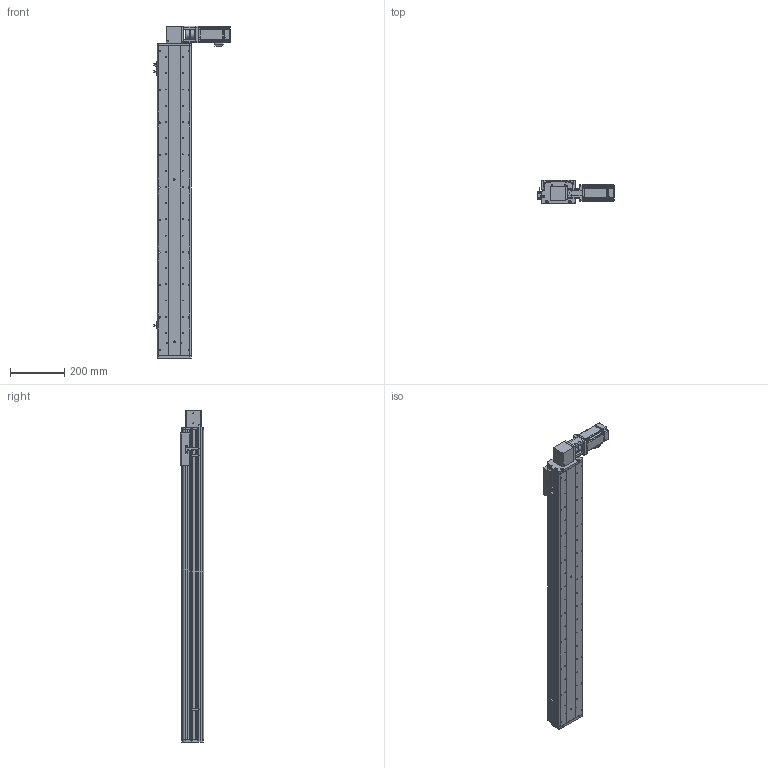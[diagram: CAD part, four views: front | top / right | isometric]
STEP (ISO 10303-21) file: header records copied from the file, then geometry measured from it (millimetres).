
FILE_DESCRIPTION (( 'STEP AP214' ), '1' );
FILE_NAME ('KSD125B-S950-MRT-CM.STEP', '2017-10-21T07:02:19', ( '微软用户' ), ( '微软中国' ), 'SwSTEP 2.0', 'SolidWorks 2014', '' );
FILE_SCHEMA (( 'AUTOMOTIVE_DESIGN' ));
Length unit declared in the file: millimetre
Products named in the file (16): 100遵鎮湛假蚾啣1 ; 覜茼え68遵圉猾敕; U倰嫖萇假蚾璃; U倰嫖萇EEㄜSX672; KSD125模组同步带-防撞垫1; 100宽安装板同步带带电机座400W,86; 前端板-125宽模组同步带; 125模组同步带-尾端板1; KSD125模组同步带-滑动座1; KSD125B-S950-MRT-CM; 100宽马达安装板同步带左; KSD125模组950行程同步带-防尘盖; 125模组950行程同步带-底板; MHMD042G1CA_2_03; KSD125模组同步带-防撞垫2; CS-34X32-10X14
Assembly tree (19 placements, depth 2):
  KSD125B-S950-MRT-CM
    KSD125模组同步带-滑动座1
    125模组同步带-尾端板1
    前端板-125宽模组同步带
    100宽安装板同步带带电机座400W,86
    KSD125模组同步带-防撞垫1
    U倰嫖萇EEㄜSX672  x3
    U倰嫖萇假蚾璃  x3
    覜茼え68遵圉猾敕
    100遵鎮湛假蚾啣1 
    CS-34X32-10X14
    KSD125模组同步带-防撞垫2
    MHMD042G1CA_2_03
    125模组950行程同步带-底板
    KSD125模组950行程同步带-防尘盖
    100宽马达安装板同步带左
Bounding box: 282.7 x 86 x 1227 mm (x, y, z)
Volume: 3775524.4 mm3; surface area: 1245992.5 mm2
Topology: 18 solids, 21 shells, 1710 faces, 4906 edges, 3236 vertices
Faces by surface type: cylinder 901, plane 706, cone 81, bspline 22
Entity records: 60234 total; most frequent: CARTESIAN_POINT 12176, DIRECTION 8821, ORIENTED_EDGE 8332, EDGE_CURVE 4244, AXIS2_PLACEMENT_3D 3285, VERTEX_POINT 2828, LINE 2251, VECTOR 2251
